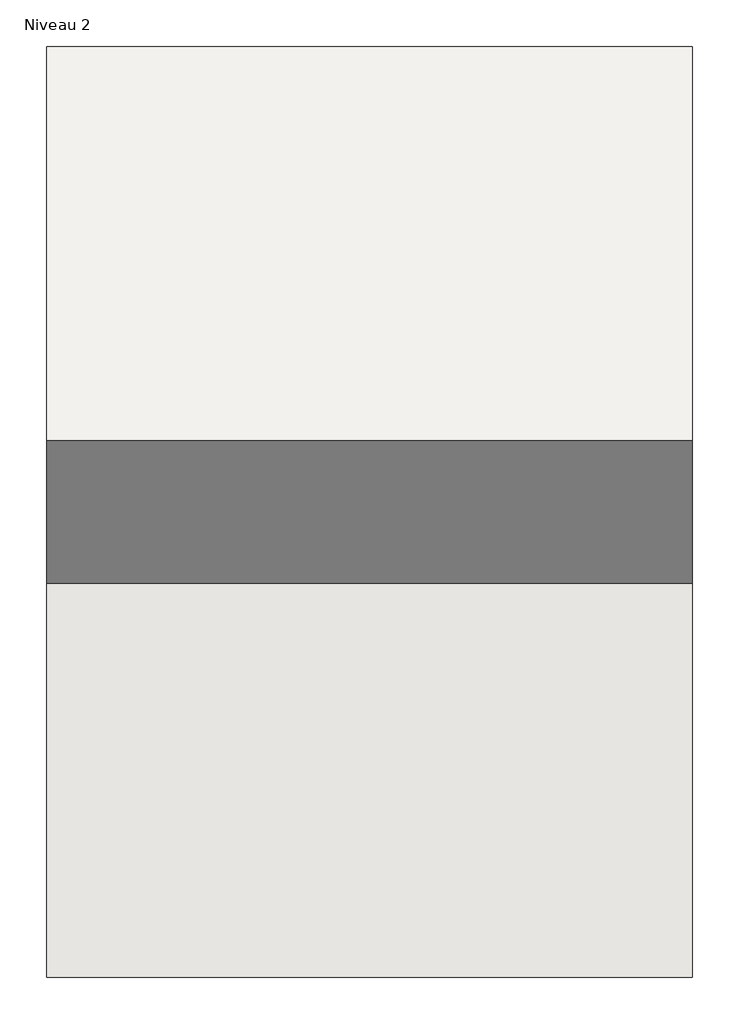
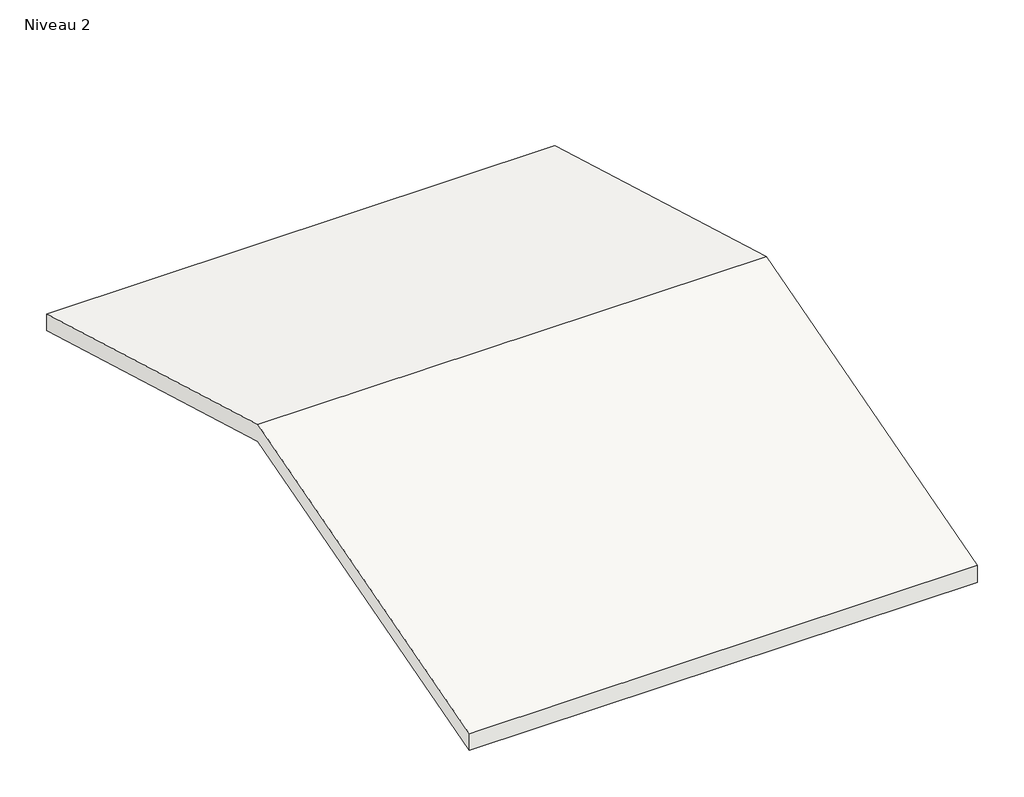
# One storey: 1 roof.
"""IFC4 building model written with IfcOpenShell, lengths in millimetres."""

from ifc_helpers import new_model, si_unit, frame, origin, place, context, project, spatial, polyline, outline, extrude, element, save

model = new_model("IFC4")

# Units and contexts
model_context = context("Model", 3, world=origin())
ifc_project = project(units=[si_unit("LENGTHUNIT", "METRE", prefix="MILLI")], contexts=[model_context])

# Site, building, storey
site = spatial("IfcSite", under=ifc_project)
building = spatial("IfcBuilding", under=site)
storey = spatial("IfcBuildingStorey", under=building, Name="Niveau 2", Elevation=5040.0)

# Roof
placement = place(None, origin())
element("IfcRoof", 1, ObjectType="Toit - 200 mm", at=placement, inside=storey, context=model_context, shape_type="SweptSolid", body=[
    extrude(outline(polyline([(-7558.5826524, 5190.71081), (-3233.5826524, 6430.8846034), (1091.4173476, 5190.71081), (1091.4173476, 4982.6509228), (-3233.5826524, 6222.8247163), (-7558.5826524, 4982.6509228), (-7558.5826524, 5190.71081)])), frame((-8799.0916034, 0.0, 0.0), z_axis=(1.0, 0.0, 0.0), x_axis=(0.0, 1.0, 0.0)), (0.0, 0.0, 1.0), 6000.0),
])

save(model, "model.ifc")
